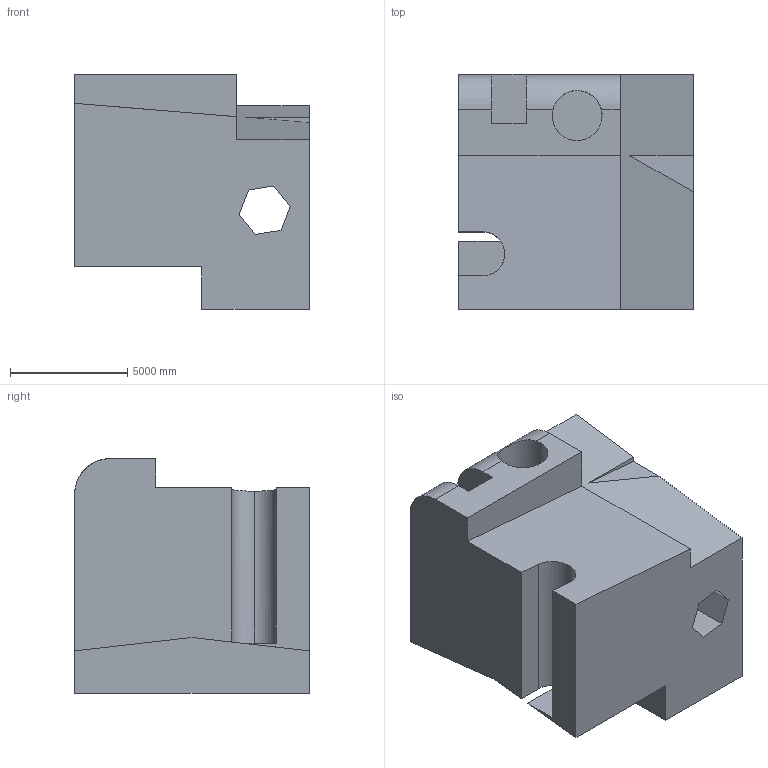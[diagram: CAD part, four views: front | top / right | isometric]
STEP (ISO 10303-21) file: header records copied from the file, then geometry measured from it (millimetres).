
FILE_DESCRIPTION (( 'STEP AP203' ), '1' );
FILE_NAME ('799.STEP', '2022-07-29T13:17:37', ( 'user' ), ( '' ), 'SwSTEP 2.0', 'SolidWorks 2021', '' );
FILE_SCHEMA (( 'CONFIG_CONTROL_DESIGN' ));
Length unit declared in the file: centimetre
Products named in the file (1): 799
Bounding box: 10000 x 10000 x 10000 mm (x, y, z)
Volume: 678899940641.9 mm3; surface area: 655809575.8 mm2
Topology: 1 solids, 1 shells, 36 faces, 102 edges, 68 vertices
Faces by surface type: plane 30, cylinder 6
Entity records: 1346 total; most frequent: CARTESIAN_POINT 325, ORIENTED_EDGE 204, DIRECTION 184, EDGE_CURVE 102, LINE 86, VECTOR 86, VERTEX_POINT 68, AXIS2_PLACEMENT_3D 49
